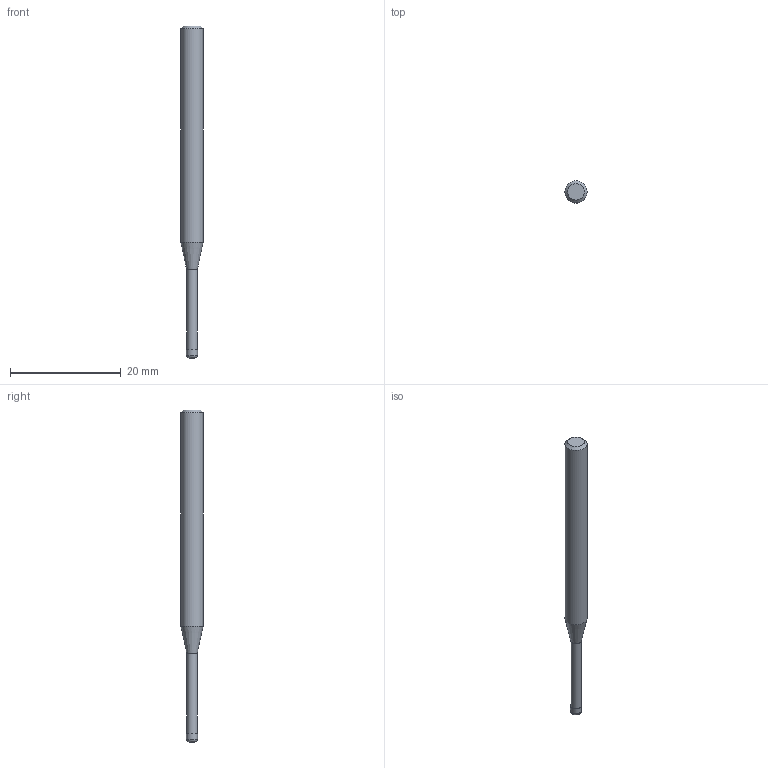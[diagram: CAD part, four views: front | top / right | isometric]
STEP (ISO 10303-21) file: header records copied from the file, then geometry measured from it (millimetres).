
FILE_DESCRIPTION((''),'2;1');
FILE_NAME('C:\Users\nsx150\AppData\Local\Temp\Mastercam 2021\3SYKECWX22\TEMP.step','2021-04-22T09:49:39',(''),(''),'STEP Write','Mastercam 2021 ... CNC Software, Inc.','');
FILE_SCHEMA(('AUTOMOTIVE_DESIGN'));
Length unit declared in the file: millimetre
Products named in the file (1): None
Bounding box: 4 x 4 x 60 mm (x, y, z)
Volume: 570.8 mm3; surface area: 650.5 mm2
Topology: 2 solids, 2 shells, 10 faces, 14 edges, 8 vertices
Faces by surface type: plane 4, cylinder 3, cone 2, torus 1
Full cylindrical faces by diameter (mm): 1.91 x1, 2 x1, 4 x1
Entity records: 232 total; most frequent: DIRECTION 40, CARTESIAN_POINT 28, AXIS2_PLACEMENT_3D 20, ORIENTED_EDGE 16, EDGE_LOOP 16, STYLED_ITEM 13, ADVANCED_FACE 10, FACE_BOUND 10
